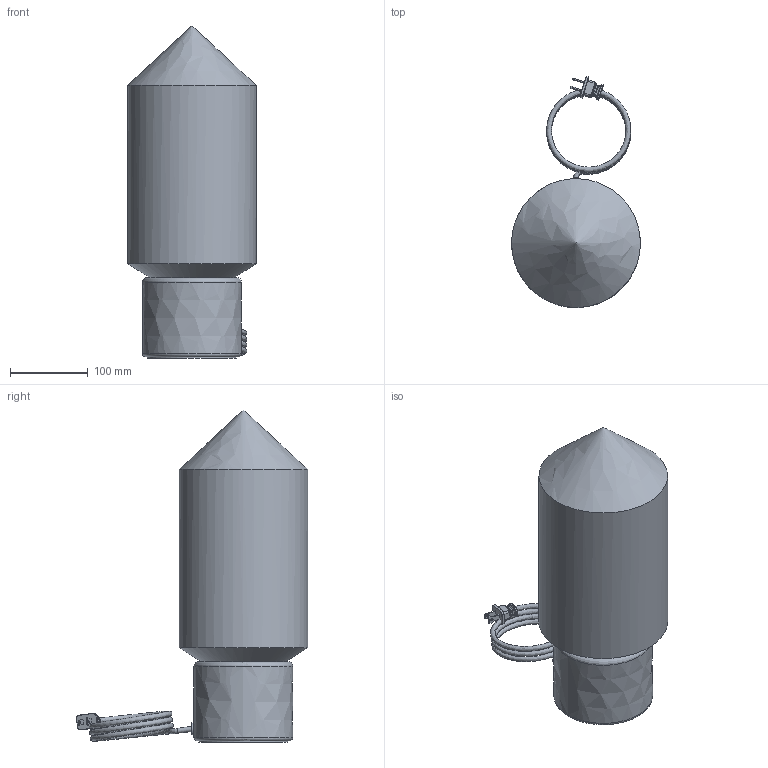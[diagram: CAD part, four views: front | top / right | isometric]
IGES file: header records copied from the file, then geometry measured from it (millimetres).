
Global section: file name: Niche - Dart Petite - Ionic Table Lamp - Opalia; native system: unknown; preprocessor: unknown; author: unknown; organization: unknown; date: 20250210.090204; units: inch
Bounding box: 165.1 x 296.78 x 425.77 mm (x, y, z)
Volume: 1504261.5 mm3; surface area: 618452.3 mm2
Topology: 14 solids, 14 shells, 1972 faces, 5268 edges, 3471 vertices
Faces by surface type: bspline 1971, revolution 1
